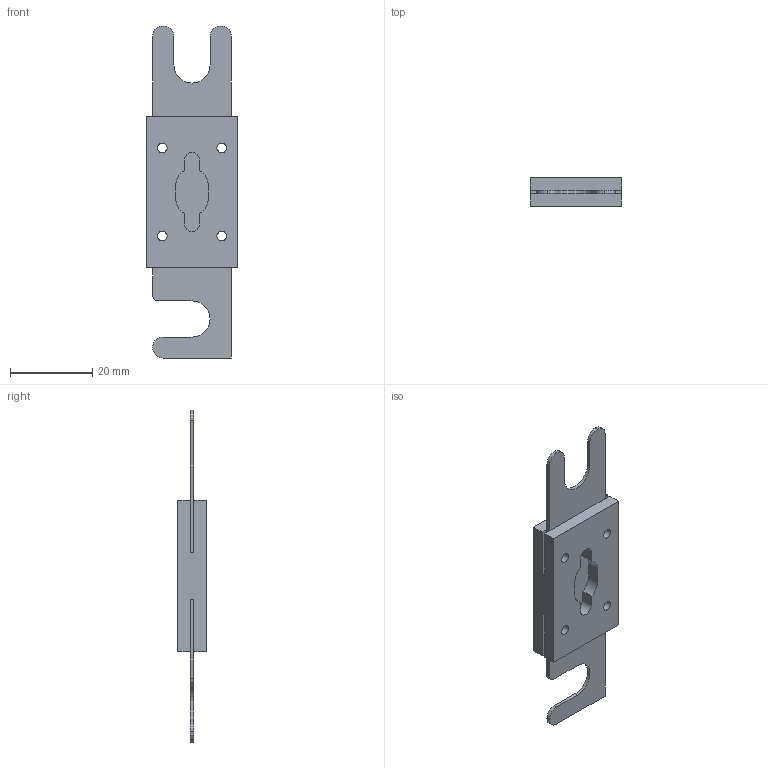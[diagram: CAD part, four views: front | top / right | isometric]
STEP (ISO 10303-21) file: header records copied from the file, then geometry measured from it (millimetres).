
FILE_DESCRIPTION(/* description */ (''),/* implementation_level */ '2;1');
FILE_NAME(/* name */ 'C:\Users\Hani\Desktop\work\ANE\ANE.stp',/* time_stamp */ '2021-10-09T13:09:32-07:00',/* author */ ('Hani'),/* organization */ (''),/* preprocessor_version */ 'ST-DEVELOPER v17',/* originating_system */ 'Autodesk Inventor 2019',/* authorisation */ '');
FILE_SCHEMA (('AUTOMOTIVE_DESIGN { 1 0 10303 214 3 1 1 }'));
Length unit declared in the file: inch
Products named in the file (1): ANE
Bounding box: 22.4 x 7.05 x 80.9 mm (x, y, z)
Volume: 5444.4 mm3; surface area: 4427.8 mm2
Topology: 1 solids, 1 shells, 210 faces, 574 edges, 380 vertices
Faces by surface type: plane 118, bspline 67, cylinder 25
Full cylindrical faces by diameter (mm): 2.362 x4
Entity records: 7278 total; most frequent: CARTESIAN_POINT 2237, ORIENTED_EDGE 1148, DIRECTION 778, EDGE_CURVE 574, LINE 390, VECTOR 390, VERTEX_POINT 380, EDGE_LOOP 232
